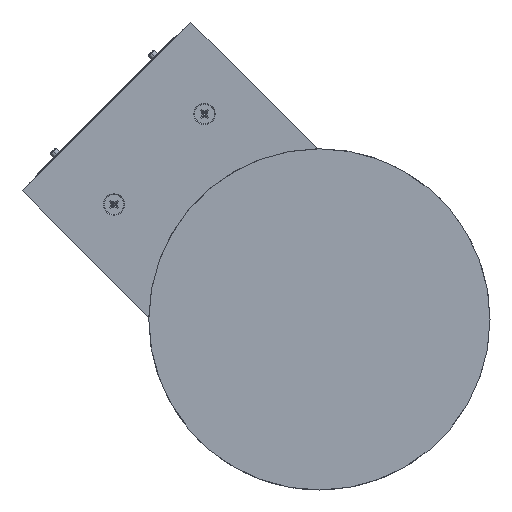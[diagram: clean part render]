
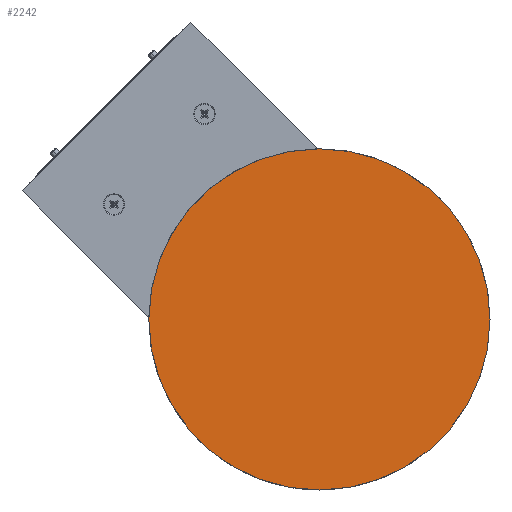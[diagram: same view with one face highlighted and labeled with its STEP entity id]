
A CAD part, front view. The second image highlights one B-rep face of the part: STEP entity #2242.
In plain terms, the highlighted planar face has unit normal (0, -1, 0).
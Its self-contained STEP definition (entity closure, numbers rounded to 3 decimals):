
#2073=CARTESIAN_POINT('',(0.,0.,0.));
#2074=DIRECTION('',(0.,1.,0.));
#2075=DIRECTION('',(-1.,0.,0.));
#2076=AXIS2_PLACEMENT_3D('',#2073,#2074,#2075);
#2078=CARTESIAN_POINT('',(0.,0.,0.));
#2079=DIRECTION('',(0.,1.,0.));
#2080=DIRECTION('',(1.,0.,0.));
#2081=AXIS2_PLACEMENT_3D('',#2078,#2079,#2080);
#2195=CARTESIAN_POINT('',(-80.,0.,0.));
#2196=CARTESIAN_POINT('',(80.,0.,0.));
#2197=VERTEX_POINT('',#2195);
#2198=VERTEX_POINT('',#2196);
#2231=CARTESIAN_POINT('',(0.,0.,0.));
#2232=DIRECTION('',(0.,1.,0.));
#2233=DIRECTION('',(1.,0.,0.));
#2234=AXIS2_PLACEMENT_3D('',#2231,#2232,#2233);
#2235=PLANE('',#2234);
#2237=ORIENTED_EDGE('',*,*,#2236,.T.);
#2239=ORIENTED_EDGE('',*,*,#2238,.T.);
#2240=EDGE_LOOP('',(#2237,#2239));
#2241=FACE_OUTER_BOUND('',#2240,.F.);
#2242=ADVANCED_FACE('',(#2241),#2235,.F.);
#2077=CIRCLE('',#2076,80.);
#2082=CIRCLE('',#2081,80.);
#2236=EDGE_CURVE('',#2197,#2198,#2077,.T.);
#2238=EDGE_CURVE('',#2198,#2197,#2082,.T.);
